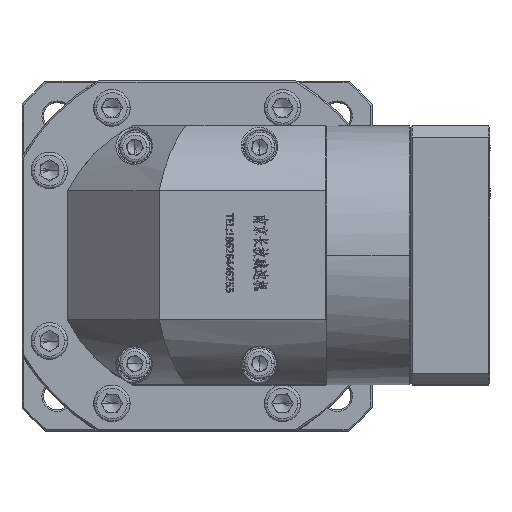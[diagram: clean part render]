
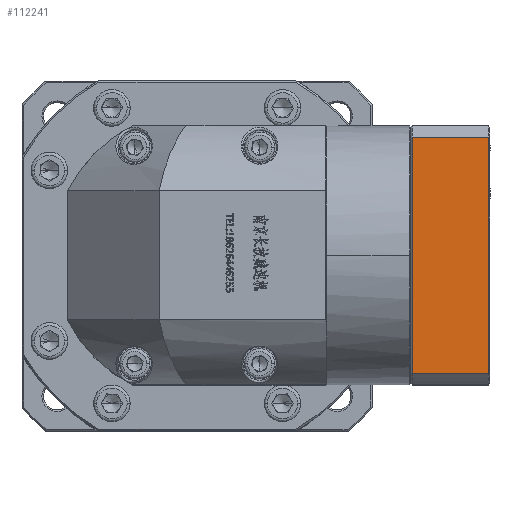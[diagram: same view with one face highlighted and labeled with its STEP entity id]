
A CAD part, top view. The second image highlights one B-rep face of the part: STEP entity #112241.
In plain terms, the highlighted planar face has unit normal (0, 0, 1).
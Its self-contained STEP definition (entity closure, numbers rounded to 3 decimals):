
#693 = EDGE_CURVE ( 'NONE', #182996, #88666, #167265, .T. ) ;
#1202 = ORIENTED_EDGE ( 'NONE', *, *, #81420, .F. ) ;
#2095 = CARTESIAN_POINT ( 'NONE',  ( 117.132, 110.279, 92.135 ) ) ;
#6794 = ORIENTED_EDGE ( 'NONE', *, *, #61365, .T. ) ;
#9306 = EDGE_LOOP ( 'NONE', ( #6794, #1202, #37380, #145956 ) ) ;
#14131 = LINE ( 'NONE', #166878, #85360 ) ;
#17604 = LINE ( 'NONE', #132179, #122184 ) ;
#36933 = AXIS2_PLACEMENT_3D ( 'NONE', #58876, #158319, #73213 ) ;
#37380 = ORIENTED_EDGE ( 'NONE', *, *, #103331, .F. ) ;
#58876 = CARTESIAN_POINT ( 'NONE',  ( 142.632, 106.509, 92.135 ) ) ;
#60416 = CARTESIAN_POINT ( 'NONE',  ( 117.132, 187.739, 92.135 ) ) ;
#61365 = EDGE_CURVE ( 'NONE', #182996, #83273, #114447, .T. ) ;
#63153 = CARTESIAN_POINT ( 'NONE',  ( 142.132, 110.279, 92.135 ) ) ;
#63173 = DIRECTION ( 'NONE',  ( 0., -1., 0. ) ) ;
#73213 = DIRECTION ( 'NONE',  ( 0., 1., 0. ) ) ;
#81420 = EDGE_CURVE ( 'NONE', #117887, #83273, #14131, .T. ) ;
#81679 = CARTESIAN_POINT ( 'NONE',  ( 142.132, 187.739, 92.135 ) ) ;
#83273 = VERTEX_POINT ( 'NONE', #2095 ) ;
#85360 = VECTOR ( 'NONE', #181186, 1000. ) ;
#86987 = PLANE ( 'NONE',  #36933 ) ;
#88666 = VERTEX_POINT ( 'NONE', #81679 ) ;
#103331 = EDGE_CURVE ( 'NONE', #88666, #117887, #17604, .T. ) ;
#111628 = DIRECTION ( 'NONE',  ( 0., -1., 0. ) ) ;
#112241 = ADVANCED_FACE ( 'NONE', ( #171852 ), #86987, .F. ) ;
#114447 = LINE ( 'NONE', #139452, #152189 ) ;
#117887 = VERTEX_POINT ( 'NONE', #63153 ) ;
#122184 = VECTOR ( 'NONE', #63173, 1000. ) ;
#123270 = CARTESIAN_POINT ( 'NONE',  ( 142.632, 187.739, 92.135 ) ) ;
#129447 = VECTOR ( 'NONE', #167924, 1000. ) ;
#132179 = CARTESIAN_POINT ( 'NONE',  ( 142.132, 106.509, 92.135 ) ) ;
#139452 = CARTESIAN_POINT ( 'NONE',  ( 117.132, 106.509, 92.135 ) ) ;
#145956 = ORIENTED_EDGE ( 'NONE', *, *, #693, .F. ) ;
#152189 = VECTOR ( 'NONE', #111628, 1000. ) ;
#158319 = DIRECTION ( 'NONE',  ( 0., 0., -1. ) ) ;
#166878 = CARTESIAN_POINT ( 'NONE',  ( -47.629, 110.279, 92.135 ) ) ;
#167265 = LINE ( 'NONE', #123270, #129447 ) ;
#167924 = DIRECTION ( 'NONE',  ( 1., 0., 0. ) ) ;
#171852 = FACE_OUTER_BOUND ( 'NONE', #9306, .T. ) ;
#181186 = DIRECTION ( 'NONE',  ( -1., 0., 0. ) ) ;
#182996 = VERTEX_POINT ( 'NONE', #60416 ) ;
